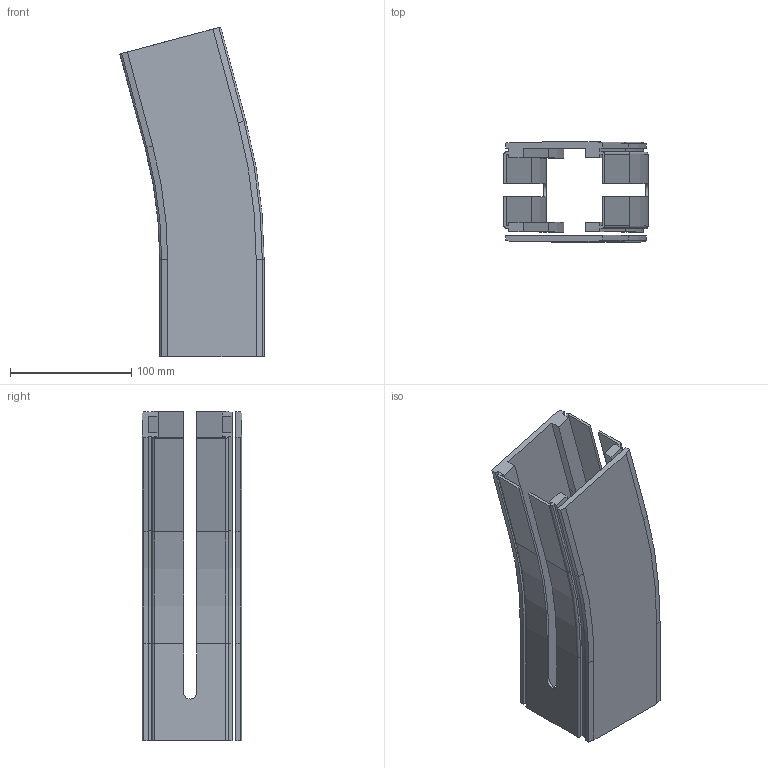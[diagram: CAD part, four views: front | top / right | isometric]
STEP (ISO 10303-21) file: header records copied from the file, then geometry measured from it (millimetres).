
FILE_DESCRIPTION((''),'2;1');
FILE_NAME('C:\Vault Klient\Projekt\Koncept konstruktion\Serie 530 Balk\530-5230.stp','2010-12-01T08:09:16',('Mathias'),(''),'Autodesk Inventor 2011','Autodesk Inventor 2011','');
FILE_SCHEMA(('AUTOMOTIVE_DESIGN { 1 0 10303 214 1 1 1 1 }'));
Length unit declared in the file: millimetre
Products named in the file (1): 530-5230
Bounding box: 118.87 x 82 x 271.93 mm (x, y, z)
Volume: 382913.5 mm3; surface area: 185046.4 mm2
Topology: 2 solids, 2 shells, 159 faces, 434 edges, 284 vertices
Faces by surface type: plane 103, cylinder 34, bspline 14, cone 4, torus 4
Entity records: 5158 total; most frequent: CARTESIAN_POINT 1072, ORIENTED_EDGE 868, DIRECTION 774, EDGE_CURVE 434, VECTOR 330, LINE 330, VERTEX_POINT 284, AXIS2_PLACEMENT_3D 222
